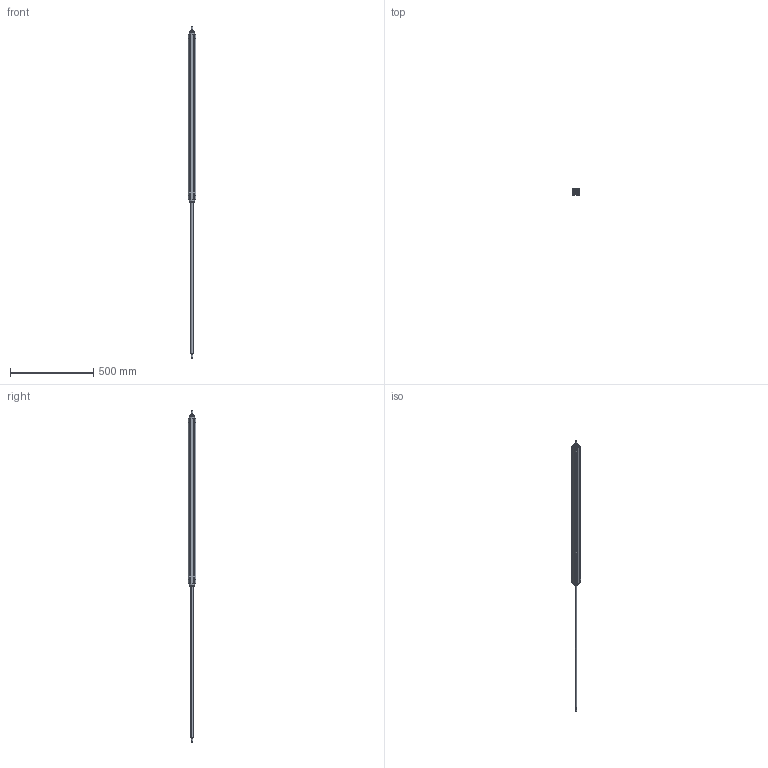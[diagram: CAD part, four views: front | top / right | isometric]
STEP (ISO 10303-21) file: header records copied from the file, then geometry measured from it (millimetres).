
FILE_DESCRIPTION((''),'2;1');
FILE_NAME('F:\Lib-3d\1380\CIL\1380_32_0900_02.stp','2004-01-07T16:03:00',('maffial1'),(''),'Autodesk Inventor 8','Autodesk Inventor 8','');
FILE_SCHEMA(('AUTOMOTIVE_DESIGN { 1 0 10303 214 1 1 1 1 }'));
Length unit declared in the file: millimetre
Products named in the file (3): 1380_32_0900_02; CPP04_32_900; CPP03_32_900
Assembly tree (2 placements, depth 2):
  1380_32_0900_02
    CPP04_32_900
    CPP03_32_900
Bounding box: 46 x 46 x 1990 mm (x, y, z)
Volume: 1973379 mm3; surface area: 346249 mm2
Topology: 2 solids, 2 shells, 236 faces, 564 edges, 356 vertices
Faces by surface type: plane 80, cylinder 66, bspline 62, cone 24, torus 4
Entity records: 7513 total; most frequent: CARTESIAN_POINT 2031, DIRECTION 1154, ORIENTED_EDGE 1096, EDGE_CURVE 548, AXIS2_PLACEMENT_3D 427, VERTEX_POINT 356, VECTOR 300, LINE 300
